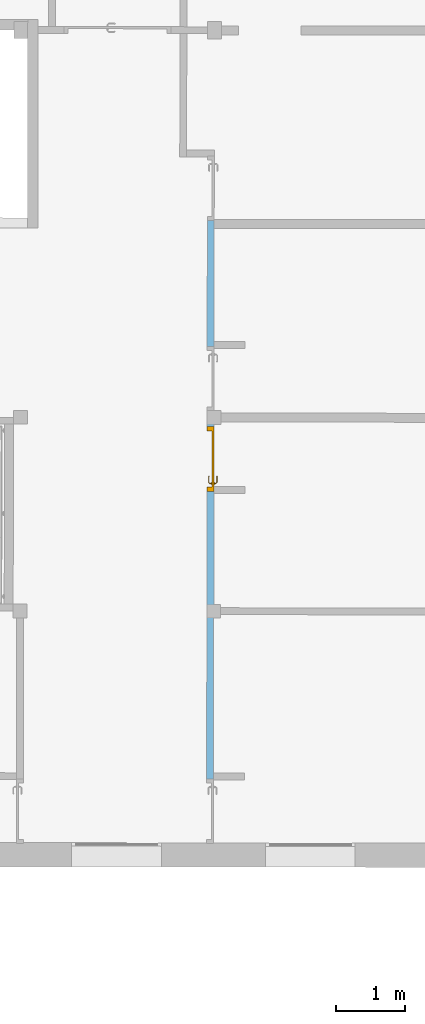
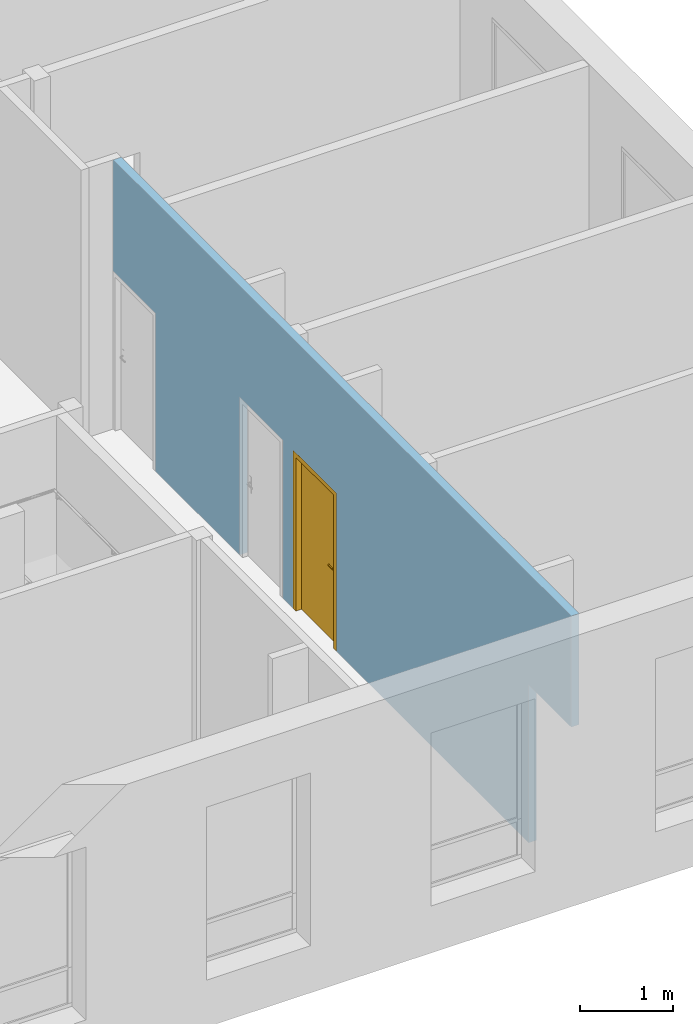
# One storey, part 73 of 101: 1 door, 4 openings, plus 1 element that does not belong to this part.
"""IFC2X3 building model written with IfcOpenShell, lengths in metres."""

import ifcopenshell
import ifcopenshell.guid

model = None  # the IFC model being written
_history = None  # IfcOwnerHistory: only IFC2X3 demands one
_inside = {}  # id of a spatial element -> (the spatial element, [elements in it])
_under = {}  # id of a project, library or spatial element -> (it, [spatial elements below it])
_declared = {}  # id of a project -> (the project, [libraries it declares])
_typed = {}  # id of a type object -> (the type object, [elements of that type])
_made_of = {}  # id of a material, layer set ... -> (it, [elements and type objects made of it])


def new_model(schema):
    """Start an empty IFC model of exactly this schema.

    Asked for "IFC4X3", IfcOpenShell would pick the latest addendum, in which some entities
    have other attributes; the version numbers below select the first issue.
    IFC2X3 requires an IfcOwnerHistory on every rooted entity: one is made here for all.
    """
    global model, _history
    if schema == "IFC4X3":
        model = ifcopenshell.file(schema_version=(4, 3, 0, 0))
    else:
        model = ifcopenshell.file(schema=schema)
    _inside.clear()
    _under.clear()
    _declared.clear()
    _typed.clear()
    _made_of.clear()
    _history = None
    if model.schema == "IFC2X3":
        org = make("IfcOrganization", Name="unknown")
        user = make(
            "IfcPersonAndOrganization",
            ThePerson=make("IfcPerson", FamilyName="unknown"),
            TheOrganization=org,
        )
        app = make(
            "IfcApplication",
            ApplicationDeveloper=org,
            Version="unknown",
            ApplicationFullName="unknown",
            ApplicationIdentifier="unknown",
        )
        _history = make(
            "IfcOwnerHistory",
            OwningUser=user,
            OwningApplication=app,
            ChangeAction="ADDED",
            CreationDate=0,
        )
    return model


def make(cls, **values):
    """One entity of the class cls with the attributes given. An attribute that is None is left unset."""
    return model.create_entity(
        cls, **{name: value for name, value in values.items() if value is not None}
    )


def entity(cls, *values):
    """Any entity or typed value of the class cls, its attributes in the order of the schema. None: left unset."""
    e = model.create_entity(cls)
    for i, value in enumerate(values):
        if value is not None:
            e[i] = value
    return e


def rooted(cls, **values):
    """An entity with a GlobalId (a new one), such as an element, a storey or a relation."""
    return make(cls, GlobalId=ifcopenshell.guid.new(), OwnerHistory=_history, **values)


def si_unit(unit_type, name, prefix=None):
    """IfcSIUnit, for example si_unit("LENGTHUNIT", "METRE", prefix="MILLI")."""
    return make("IfcSIUnit", UnitType=unit_type, Prefix=prefix, Name=name)


def converted_unit(unit_type, name, factor, base, dimensions=None, offset=None):
    """IfcConversionBasedUnit, such as the inch: factor (a typed value) times the base unit."""
    return make(
        "IfcConversionBasedUnit"
        if offset is None
        else "IfcConversionBasedUnitWithOffset",
        ConversionOffset=offset,
        Dimensions=None
        if dimensions is None
        else entity("IfcDimensionalExponents", *dimensions),
        UnitType=unit_type,
        Name=name,
        ConversionFactor=make(
            "IfcMeasureWithUnit", ValueComponent=factor, UnitComponent=base
        ),
    )


def derived_unit(unit_type, elements):
    """IfcDerivedUnit: a product of units, each with its exponent."""
    return make(
        "IfcDerivedUnit",
        Elements=[
            make("IfcDerivedUnitElement", Unit=unit, Exponent=power)
            for unit, power in elements
        ],
        UnitType=unit_type,
    )


def assignment(units):
    """IfcUnitAssignment: the units of a project."""
    return None if units is None else make("IfcUnitAssignment", Units=units)


def point(xyz):
    """IfcCartesianPoint."""
    return None if xyz is None else make("IfcCartesianPoint", Coordinates=xyz)


def direction(xyz):
    """IfcDirection."""
    return None if xyz is None else make("IfcDirection", DirectionRatios=xyz)


def frame(location, z_axis=None, x_axis=None):
    """IfcAxis2Placement3D, a coordinate frame: its origin and axes. An axis left out is left unset."""
    return make(
        "IfcAxis2Placement3D",
        Location=point(location),
        Axis=direction(z_axis),
        RefDirection=direction(x_axis),
    )


def frame_2d(location, x_axis=None):
    """IfcAxis2Placement2D, a coordinate frame in the plane: its origin and x axis."""
    return make(
        "IfcAxis2Placement2D", Location=point(location), RefDirection=direction(x_axis)
    )


def origin():
    """The frame at (0, 0, 0) with its axes left unset."""
    return frame((0.0, 0.0, 0.0))


def place(relative_to, where):
    """IfcLocalPlacement: puts the frame where relative to a parent placement (None: the world)."""
    return make(
        "IfcLocalPlacement", PlacementRelTo=relative_to, RelativePlacement=where
    )


def context(
    kind, dimensions, precision=None, world=None, true_north=None, identifier=None
):
    """IfcGeometricRepresentationContext, for example the 3D "Model" context."""
    return make(
        "IfcGeometricRepresentationContext",
        ContextIdentifier=identifier,
        ContextType=kind,
        CoordinateSpaceDimension=dimensions,
        Precision=precision,
        WorldCoordinateSystem=world,
        TrueNorth=true_north,
    )


def subcontext(parent, identifier, kind, view, scale=None):
    """IfcGeometricRepresentationSubContext, for example "Body" below "Model"."""
    return make(
        "IfcGeometricRepresentationSubContext",
        ContextIdentifier=identifier,
        ContextType=kind,
        ParentContext=parent,
        TargetScale=scale,
        TargetView=view,
    )


def project(units=None, contexts=None):
    """IfcProject with its units and contexts."""
    return rooted(
        "IfcProject",
        Name="project",
        RepresentationContexts=contexts,
        UnitsInContext=assignment(units),
    )


def spatial(cls, under=None, at=None, **own):
    """A site, building, storey or space (cls), placed at a placement, below another one or the project."""
    s = rooted(cls, ObjectPlacement=at, **own)
    if under is not None:
        _under.setdefault(under.id(), (under, []))[1].append(s)
    return s


def profile(cls, at=None, kind="AREA", **sizes):
    """A parametric profile (cls). Its sizes go by their IFC names, for example OverallWidth=200.0."""
    return make(cls, ProfileType=kind, Position=at, **sizes)


def rectangle(**sizes):
    """IfcRectangleProfileDef."""
    return profile("IfcRectangleProfileDef", **sizes)


def extrude(swept, where, along, depth):
    """IfcExtrudedAreaSolid: the profile swept, set in the frame where, extruded along a direction by depth."""
    return make(
        "IfcExtrudedAreaSolid",
        SweptArea=swept,
        Position=where,
        ExtrudedDirection=direction(along),
        Depth=depth,
    )


def faces_of(points, faces, orient=None, outer=None):
    """IfcFace entities. A face is a list of loops; a loop is a list of indices into points, from 0.

    orient and outer hold one flag for each loop. By default every Orientation is true, the
    first loop of a face is its IfcFaceOuterBound and the others are IfcFaceBound.
    """
    made = []
    for i, loops in enumerate(faces):
        bounds = []
        for j, loop in enumerate(loops):
            is_outer = j == 0 if outer is None else outer[i][j]
            bounds.append(
                make(
                    "IfcFaceOuterBound" if is_outer else "IfcFaceBound",
                    Bound=make("IfcPolyLoop", Polygon=[points[k] for k in loop]),
                    Orientation=True if orient is None else orient[i][j],
                )
            )
        made.append(make("IfcFace", Bounds=bounds))
    return made


def faceted_brep(points, faces, orient=None, outer=None, voids=None):
    """IfcFacetedBrep: a solid bounded by flat faces; with voids (closed shells), ...WithVoids."""
    shared = [point(p) for p in points]
    hull = make("IfcClosedShell", CfsFaces=faces_of(shared, faces, orient, outer))
    if voids is None:
        return make("IfcFacetedBrep", Outer=hull)
    return make(
        "IfcFacetedBrepWithVoids",
        Outer=hull,
        Voids=[
            make(cls, CfsFaces=faces_of(shared, fs, o, b)) for cls, fs, o, b in voids
        ],
    )


def shape(context_of_items, identifier, shape_type, items):
    """IfcShapeRepresentation: the items that make up one representation, for example the "Body"."""
    return make(
        "IfcShapeRepresentation",
        ContextOfItems=context_of_items,
        RepresentationIdentifier=identifier,
        RepresentationType=shape_type,
        Items=items,
    )


def source(mapping_origin, context_of_items, identifier, shape_type, items):
    """IfcRepresentationMap: a shape defined once, which mapped items show again and again."""
    return make(
        "IfcRepresentationMap",
        MappingOrigin=mapping_origin,
        MappedRepresentation=shape(context_of_items, identifier, shape_type, items),
    )


def transform(
    local_origin,
    x_axis=None,
    y_axis=None,
    z_axis=None,
    scale=None,
    scale2=None,
    scale3=None,
    uniform=True,
):
    """IfcCartesianTransformationOperator3D, or its non-uniform kind. x_axis, y_axis, z_axis: its Axis1, 2, 3."""
    if uniform:
        return make(
            "IfcCartesianTransformationOperator3D",
            Axis1=direction(x_axis),
            Axis2=direction(y_axis),
            LocalOrigin=point(local_origin),
            Scale=scale,
            Axis3=direction(z_axis),
        )
    return make(
        "IfcCartesianTransformationOperator3DnonUniform",
        Axis1=direction(x_axis),
        Axis2=direction(y_axis),
        LocalOrigin=point(local_origin),
        Scale=scale,
        Axis3=direction(z_axis),
        Scale2=scale2,
        Scale3=scale3,
    )


def mapped(mapping_source, mapping_target):
    """IfcMappedItem: shows the shape of a source again, moved by a transform."""
    return make(
        "IfcMappedItem", MappingSource=mapping_source, MappingTarget=mapping_target
    )


def material(Name=None, Category=None):
    """IfcMaterial."""
    return make("IfcMaterial", Name=Name, Category=Category)


def material_list(materials):
    """IfcMaterialList."""
    return make("IfcMaterialList", Materials=materials)


def layer(
    of_material, thickness, ventilated=None, Name=None, Category=None, Priority=None
):
    """IfcMaterialLayer: one layer of a wall or slab, of a material (None: an air gap)."""
    return make(
        "IfcMaterialLayer",
        Material=of_material,
        LayerThickness=thickness,
        IsVentilated=ventilated,
        Name=Name,
        Category=Category,
        Priority=Priority,
    )


def layer_set(layers, Name=None):
    """IfcMaterialLayerSet."""
    return make("IfcMaterialLayerSet", MaterialLayers=layers, LayerSetName=Name)


def layer_usage(for_layer_set, set_direction, sense, offset, extent=None):
    """IfcMaterialLayerSetUsage: how a layer set lies in its element."""
    return make(
        "IfcMaterialLayerSetUsage",
        ForLayerSet=for_layer_set,
        LayerSetDirection=set_direction,
        DirectionSense=sense,
        OffsetFromReferenceLine=offset,
        ReferenceExtent=extent,
    )


def made_of(thing, what):
    """Note that an element or type object is made of a material, layer set ...; save() writes the relation."""
    if what is not None:
        _made_of.setdefault(what.id(), (what, []))[1].append(thing)
    return thing


def type_object(cls, material=None, **own):
    """A type object (cls), such as IfcWallType, which elements share."""
    return made_of(rooted(cls, **own), material)


def type_shapes(of_type, sources):
    """Give a type object the sources (RepresentationMaps) that its elements show as mapped items."""
    of_type.RepresentationMaps = sources


def element(
    cls,
    number,
    at=None,
    inside=None,
    cuts=None,
    type_object=None,
    material=None,
    context=None,
    identifier="Body",
    shape_type=None,
    held_by="IfcProductDefinitionShape",
    body=None,
    shapes=None,
    **own,
):
    """One element of the class cls, such as IfcWall. Its Tag is "e" and its number.

    at: its placement. inside: the storey or other place that contains it. cuts: it is an
    opening in that element (IfcRelVoidsElement). A single representation is given by context,
    identifier, shape_type and body (its items); several are given by shapes. held_by: the class
    of the entity that holds the representations. save() writes the other relations.
    """
    e = rooted(cls, Tag="e%d" % number, ObjectPlacement=at, **own)
    if body is not None:
        shapes = [shape(context, identifier, shape_type, body)]
    if shapes is not None:
        e.Representation = make(held_by, Representations=shapes)
    if inside is not None:
        _inside.setdefault(inside.id(), (inside, []))[1].append(e)
    if cuts is not None:
        rooted(
            "IfcRelVoidsElement", RelatingBuildingElement=cuts, RelatedOpeningElement=e
        )
    if type_object is not None:
        _typed.setdefault(type_object.id(), (type_object, []))[1].append(e)
    return made_of(e, material)


def fill(opening, filler):
    """IfcRelFillsElement: the door or window that sits in an opening."""
    return rooted(
        "IfcRelFillsElement",
        RelatingOpeningElement=opening,
        RelatedBuildingElement=filler,
    )


def aggregate(whole, parts):
    """IfcRelAggregates: a whole, such as a stair, and the parts it consists of."""
    return rooted("IfcRelAggregates", RelatingObject=whole, RelatedObjects=parts)


def save(model, path):
    """Write the relations noted so far, then the file.

    IfcRelAggregates (storeys below a building ...), IfcRelContainedInSpatialStructure (elements
    in a storey), IfcRelDefinesByType, IfcRelAssociatesMaterial and IfcRelDeclares: one each for
    every whole, place, type object, material and project.
    """
    for whole, parts in _under.values():
        aggregate(whole, parts)
    for where, things in _inside.values():
        rooted(
            "IfcRelContainedInSpatialStructure",
            RelatedElements=things,
            RelatingStructure=where,
        )
    for kind, things in _typed.values():
        rooted("IfcRelDefinesByType", RelatedObjects=things, RelatingType=kind)
    for what, things in _made_of.values():
        rooted("IfcRelAssociatesMaterial", RelatedObjects=things, RelatingMaterial=what)
    for by, libraries in _declared.values():
        rooted("IfcRelDeclares", RelatingContext=by, RelatedDefinitions=libraries)
    model.write(path)


model = new_model("IFC2X3")

# Units and contexts
model_context = context("Model", 3, precision=1e-05, world=origin(), true_north=direction((6.123233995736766e-17, 1.0)))
body_context = subcontext(model_context, "Body", "Model", "MODEL_VIEW")
ifc_project = project(units=[si_unit("LENGTHUNIT", "METRE"), si_unit("AREAUNIT", "SQUARE_METRE"), converted_unit("PLANEANGLEUNIT", "DEGREE", entity("IfcPlaneAngleMeasure", 0.017453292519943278), si_unit("PLANEANGLEUNIT", "RADIAN"), dimensions=[0, 0, 0, 0, 0, 0, 0]), derived_unit("THERMALTRANSMITTANCEUNIT", [(si_unit("MASSUNIT", "GRAM", prefix="KILO"), 1), (si_unit("THERMODYNAMICTEMPERATUREUNIT", "KELVIN"), -1), (si_unit("TIMEUNIT", "SECOND"), -3)])], contexts=[model_context])

# Site, building, storey
site_placement = place(None, frame((1253.6752467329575, 2072.143113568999, 91.49999999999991), z_axis=(0.0, 0.0, 1.0), x_axis=(0.7237211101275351, 0.6900925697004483, 0.0)))
site = spatial("IfcSite", under=ifc_project, at=site_placement, Name="Surface", CompositionType="ELEMENT")
building_placement = place(site_placement, origin())
building = spatial("IfcBuilding", under=site, at=building_placement, CompositionType="ELEMENT")
storey_placement = place(building_placement, origin())
storey = spatial("IfcBuildingStorey", under=building, at=storey_placement, Name="0- Rdc", CompositionType="ELEMENT", Elevation=-5.764692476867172e-13)

# Wall, openings, door
ifc_material_1 = material(Name="OMD_Béton blanc")
ifc_layer = layer(ifc_material_1, 0.1)
ifc_layer_set = layer_set([ifc_layer], Name="Mur de base:MUR 10")
ifc_layer_usage = layer_usage(ifc_layer_set, "AXIS2", "NEGATIVE", 0.05)
wall_type = type_object("IfcWallType", Name="Mur de base:MUR 10", PredefinedType="STANDARD", material=ifc_layer_set)
wall_placement = place(storey_placement, frame((182.31139510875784, -18.405602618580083, 0.0), z_axis=(0.0, 0.0, 1.0), x_axis=(-0.6909838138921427, -0.7228702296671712, 0.0)))
wall = element("IfcWallStandardCase", 1, at=wall_placement, inside=storey, type_object=wall_type, material=ifc_layer_usage, Name="Mur de base:MUR 10", ObjectType="Mur de base:MUR 10", context=body_context, shape_type="SweptSolid", body=[
    extrude(rectangle(XDim=9.914999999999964, YDim=0.10000000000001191, at=frame_2d((4.957499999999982, 2.4424906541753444e-15), x_axis=(-1.0, 0.0))), origin(), (0.0, 0.0, 1.0), 3.5499999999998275),
])
opening_1_placement = place(wall_placement, frame((-0.01749999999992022, -0.04999999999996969, 0.0)))
element("IfcOpeningElement", 2, at=opening_1_placement, cuts=wall, Name="OMD_Porte 1V tunnel:80x204:1", ObjectType="Opening", context=body_context, shape_type="SweptSolid", body=[
    extrude(rectangle(XDim=2.0850000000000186, YDim=0.9349999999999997, at=frame_2d((1.0425000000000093, 0.46749999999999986), x_axis=(1.0, 0.0))), frame((0.0, 0.0, 0.0), z_axis=(0.0, 1.0, 0.0), x_axis=(0.0, 0.0, 1.0)), (0.0, 0.0, 1.0), 0.1),
])
opening_2_placement = place(wall_placement, frame((2.7375000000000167, -0.04999999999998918, 0.0)))
element("IfcOpeningElement", 3, at=opening_2_placement, cuts=wall, Name="OMD_Porte 1V tunnel:80x204:1", ObjectType="Opening", context=body_context, shape_type="SweptSolid", body=[
    extrude(rectangle(XDim=2.0850000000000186, YDim=0.9349999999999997, at=frame_2d((1.0425000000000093, 0.46749999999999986), x_axis=(1.0, 0.0))), frame((0.0, 0.0, 0.0), z_axis=(0.0, 1.0, 0.0), x_axis=(0.0, 0.0, 1.0)), (0.0, 0.0, 1.0), 0.1),
])
opening_3_placement = place(wall_placement, frame((3.8974999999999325, -0.04999999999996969, 0.0)))
opening_3 = element("IfcOpeningElement", 4, at=opening_3_placement, cuts=wall, Name="OMD_Porte 1V tunnel:80x204:1", ObjectType="Opening", context=body_context, shape_type="SweptSolid", body=[
    extrude(rectangle(XDim=2.0850000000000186, YDim=0.9349999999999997, at=frame_2d((1.0425000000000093, 0.46749999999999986), x_axis=(1.0, 0.0))), frame((0.0, 0.0, 0.0), z_axis=(0.0, 1.0, 0.0), x_axis=(0.0, 0.0, 1.0)), (0.0, 0.0, 1.0), 0.1),
])
opening_4_placement = place(wall_placement, frame((8.992500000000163, -0.050000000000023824, 0.0)))
element("IfcOpeningElement", 5, at=opening_4_placement, cuts=wall, Name="OMD_Porte 1V tunnel:80x204:1", ObjectType="Opening", context=body_context, shape_type="SweptSolid", body=[
    extrude(rectangle(XDim=2.0850000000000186, YDim=0.9349999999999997, at=frame_2d((1.0425000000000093, 0.46749999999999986), x_axis=(1.0, 0.0))), frame((0.0, 0.0, 0.0), z_axis=(0.0, 1.0, 0.0), x_axis=(0.0, 0.0, 1.0)), (0.0, 0.0, 1.0), 0.1),
])
ifc_material_2 = material(Name="Porte - Poignée")
ifc_material_3 = material(Name="OMD_Peinture mur")
ifc_material_4 = material(Name="OMD_Bois")
ifc_material_list = material_list([ifc_material_2, ifc_material_3, ifc_material_4])
door_style = type_object("IfcDoorStyle", Name="OMD_Porte 1V tunnel:80x204", ConstructionType="NOTDEFINED", OperationType="NOTDEFINED", ParameterTakesPrecedence=False, Sizeable=False, material=ifc_material_list)
shared_shape = source(origin(), body_context, "Body", "Brep", [
    faceted_brep([(0.21297470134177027, 0.03500000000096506, 1.0077804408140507), (0.20900000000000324, 0.03500000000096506, 1.0069999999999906), (0.208999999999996, 0.03500000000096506, 0.9929999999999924), (0.21297470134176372, 0.03500000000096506, 0.9922195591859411), (0.21702529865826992, 0.03500000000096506, 0.9922195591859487), (0.22100000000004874, 0.03500000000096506, 0.9930000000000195), (0.22100000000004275, 0.03500000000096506, 1.0069999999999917), (0.2170252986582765, 0.03500000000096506, 1.007780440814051), (0.22100000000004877, 0.05748520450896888, 0.9930000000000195), (0.22100000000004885, 0.057485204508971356, 1.0069999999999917), (0.21702529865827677, 0.059131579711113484, 1.007780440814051), (0.23083890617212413, 0.07294518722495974, 1.007780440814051), (0.2291610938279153, 0.07699578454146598, 1.0077804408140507), (0.21297470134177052, 0.060809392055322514, 1.0077804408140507), (0.3206847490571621, 0.0664673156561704, 1.0077804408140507), (0.32354895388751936, 0.06933152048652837, 1.0077804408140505), (0.31588468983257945, 0.07699578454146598, 1.0077804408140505), (0.31420687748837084, 0.07294518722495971, 1.0077804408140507), (0.20900000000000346, 0.06245576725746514, 1.0069999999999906), (0.20900000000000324, 0.06245576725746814, 0.9929999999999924), (0.21297470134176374, 0.06080939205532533, 0.9922195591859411), (0.22916109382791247, 0.07699578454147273, 0.9922195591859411), (0.23083890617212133, 0.07294518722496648, 0.9922195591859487), (0.21702529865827, 0.05913157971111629, 0.9922195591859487), (0.32354895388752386, 0.06933152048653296, 0.9922195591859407), (0.3206847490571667, 0.06646731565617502, 0.9922195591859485), (0.3142068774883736, 0.07294518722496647, 0.9922195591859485), (0.3158846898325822, 0.07699578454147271, 0.9922195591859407), (0.23248528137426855, 0.0689704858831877, 0.9930000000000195), (0.23248528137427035, 0.06897048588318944, 1.0069999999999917), (0.22751471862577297, 0.0809704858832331, 1.0069999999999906), (0.22751471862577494, 0.08097048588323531, 0.9929999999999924), (0.2725228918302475, 0.06897048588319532, 0.9930000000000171), (0.3125605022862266, 0.06897048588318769, 0.9930000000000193), (0.31256050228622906, 0.06897048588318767, 1.0069999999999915), (0.2725228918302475, 0.0689704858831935, 1.0069999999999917), (0.2725228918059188, 0.07512492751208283, 1.0078781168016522), (0.31753106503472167, 0.08097048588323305, 1.0069999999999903), (0.2776005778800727, 0.08097048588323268, 1.0069999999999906), (0.31753106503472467, 0.08097048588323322, 0.9929999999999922), (0.2674452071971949, 0.08097048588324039, 0.9929999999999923), (0.2725228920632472, 0.07512492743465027, 0.9921218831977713), (0.317874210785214, 0.06365677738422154, 0.9930000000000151), (0.32635949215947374, 0.07214205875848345, 0.99299999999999), (0.3263594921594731, 0.07214205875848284, 1.0069999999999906), (0.317874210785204, 0.06365677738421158, 1.0069999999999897)], [[[0, 1, 2, 3, 4, 5, 6, 7]], [[6, 5, 8, 9]], [[9, 10, 7, 6]], [[10, 11, 12, 13, 0, 7]], [[14, 15, 16, 17]], [[13, 18, 1, 0]], [[2, 1, 18, 19]], [[19, 20, 3, 2]], [[20, 21, 22, 23, 4, 3]], [[24, 25, 26, 27]], [[23, 8, 5, 4]], [[9, 8, 28, 29]], [[29, 11, 10, 9]], [[12, 30, 18, 13]], [[19, 18, 30, 31]], [[31, 21, 20, 19]], [[22, 28, 8, 23]], [[29, 28, 32, 33, 34, 35]], [[11, 35, 36]], [[16, 37, 38]], [[30, 12, 38]], [[38, 12, 36]], [[36, 35, 17]], [[17, 16, 36]], [[35, 11, 29]], [[34, 17, 35]], [[11, 36, 12]], [[38, 36, 16]], [[31, 30, 38, 37, 39, 40]], [[40, 41, 21]], [[41, 40, 27]], [[21, 31, 40]], [[39, 27, 40]], [[41, 32, 22]], [[22, 21, 41]], [[26, 32, 41]], [[28, 22, 32]], [[32, 26, 33]], [[26, 41, 27]], [[42, 25, 24, 43, 44, 15, 14, 45]], [[34, 33, 42, 45]], [[45, 14, 17, 34]], [[15, 44, 37, 16]], [[39, 37, 44, 43]], [[43, 24, 27, 39]], [[25, 42, 33, 26]]]),
    faceted_brep([(0.21297470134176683, -0.004999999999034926, 1.0077804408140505), (0.2170252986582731, -0.004999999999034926, 1.007780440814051), (0.2210000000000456, -0.004999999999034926, 1.006999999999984), (0.22100000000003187, -0.004999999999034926, 0.9930000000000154), (0.21702529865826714, -0.004999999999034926, 0.9922195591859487), (0.21297470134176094, -0.004999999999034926, 0.992219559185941), (0.20900000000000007, -0.004999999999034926, 0.992999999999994), (0.20900000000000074, -0.004999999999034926, 1.0069999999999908), (0.20900000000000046, -0.03265095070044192, 1.0069999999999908), (0.21297470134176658, -0.03100457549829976, 1.0077804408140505), (0.22902358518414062, -0.04705345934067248, 1.0077804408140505), (0.2307013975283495, -0.04300286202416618, 1.007780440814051), (0.21702529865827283, -0.02932676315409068, 1.007780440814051), (0.3235218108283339, -0.039389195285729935, 1.0077804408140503), (0.3206576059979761, -0.03652499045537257, 1.0077804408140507), (0.3141797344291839, -0.04300286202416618, 1.0077804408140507), (0.31585754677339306, -0.04705345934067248, 1.0077804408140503), (0.22100000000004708, -0.027680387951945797, 1.0069999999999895), (0.22100000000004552, -0.02768038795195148, 0.9930000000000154), (0.21702529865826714, -0.029326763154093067, 0.9922195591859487), (0.23070139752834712, -0.04300286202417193, 0.9922195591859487), (0.2290235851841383, -0.0470534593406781, 0.992219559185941), (0.21297470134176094, -0.031004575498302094, 0.992219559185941), (0.32065760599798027, -0.036524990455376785, 0.9922195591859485), (0.3235218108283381, -0.03938919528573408, 0.9922195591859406), (0.31585754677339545, -0.047053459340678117, 0.9922195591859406), (0.3141797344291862, -0.04300286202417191, 0.9922195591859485), (0.20899999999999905, -0.032650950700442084, 0.9929999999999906), (0.22737720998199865, -0.051028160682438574, 1.0069999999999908), (0.23234777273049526, -0.03902816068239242, 1.0069999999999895), (0.23234777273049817, -0.03902816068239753, 0.9930000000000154), (0.22737720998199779, -0.051028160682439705, 0.9929999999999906), (0.2673076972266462, -0.05102816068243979, 1.0069999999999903), (0.272440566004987, -0.0451828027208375, 1.0078781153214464), (0.3175039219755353, -0.05102816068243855, 1.0069999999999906), (0.27244056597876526, -0.039028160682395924, 1.0069999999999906), (0.3125333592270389, -0.03902816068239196, 1.0069999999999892), (0.31253335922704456, -0.03902816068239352, 0.9930000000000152), (0.27244056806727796, -0.03902816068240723, 0.9930000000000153), (0.27244056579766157, -0.04518280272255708, 0.9921218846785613), (0.3175039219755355, -0.051028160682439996, 0.9929999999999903), (0.27757344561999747, -0.051028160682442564, 0.9929999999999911), (0.3178470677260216, -0.03371445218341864, 1.0069999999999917), (0.3263323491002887, -0.04219973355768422, 1.0069999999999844), (0.3263323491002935, -0.04219973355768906, 0.9929999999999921), (0.31784706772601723, -0.033714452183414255, 0.9930000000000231)], [[[0, 1, 2, 3, 4, 5, 6, 7]], [[8, 9, 0, 7]], [[9, 10, 11, 12, 1, 0]], [[13, 14, 15, 16]], [[12, 17, 2, 1]], [[3, 2, 17, 18]], [[18, 19, 4, 3]], [[19, 20, 21, 22, 5, 4]], [[23, 24, 25, 26]], [[22, 27, 6, 5]], [[7, 6, 27, 8]], [[28, 10, 9, 8]], [[11, 29, 17, 12]], [[18, 17, 29, 30]], [[30, 20, 19, 18]], [[21, 31, 27, 22]], [[8, 27, 31, 28]], [[32, 33, 10]], [[33, 32, 16]], [[10, 28, 32]], [[34, 16, 32]], [[33, 35, 11]], [[11, 10, 33]], [[15, 35, 33]], [[29, 11, 35]], [[35, 15, 36]], [[15, 33, 16]], [[30, 29, 35, 36, 37, 38]], [[20, 38, 39]], [[25, 40, 41]], [[31, 21, 41]], [[41, 21, 39]], [[39, 38, 26]], [[26, 25, 39]], [[38, 20, 30]], [[37, 26, 38]], [[20, 39, 21]], [[41, 39, 25]], [[28, 31, 41, 40, 34, 32]], [[42, 14, 13, 43, 44, 24, 23, 45]], [[43, 13, 16, 34]], [[14, 42, 36, 15]], [[37, 36, 42, 45]], [[45, 23, 26, 37]], [[24, 44, 40, 25]], [[34, 40, 44, 43]]]),
    faceted_brep([(0.22535276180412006, 0.030000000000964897, 0.8660039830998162), (0.2350000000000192, 0.030000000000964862, 0.8700000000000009), (0.2350000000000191, 0.030000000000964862, 1.0800000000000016), (0.2253527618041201, 0.030000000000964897, 1.0839960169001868), (0.21500000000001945, 0.030000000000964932, 1.0853589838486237), (0.20464723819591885, 0.03000000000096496, 1.0839960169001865), (0.19500000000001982, 0.030000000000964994, 1.0800000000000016), (0.19500000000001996, 0.030000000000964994, 0.8700000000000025), (0.20464723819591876, 0.03000000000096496, 0.866003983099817), (0.21500000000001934, 0.030000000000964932, 0.8646410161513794), (0.22535276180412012, 0.0350000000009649, 1.0839960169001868), (0.2350000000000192, 0.03500000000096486, 1.0800000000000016), (0.23500000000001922, 0.03500000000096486, 0.8700000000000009), (0.22535276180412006, 0.0350000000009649, 0.8660039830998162), (0.21500000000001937, 0.03500000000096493, 0.8646410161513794), (0.20464723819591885, 0.03500000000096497, 0.866003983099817), (0.19500000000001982, 0.035000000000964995, 0.8700000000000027), (0.19500000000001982, 0.035000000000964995, 1.0800000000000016), (0.20464723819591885, 0.03500000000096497, 1.0839960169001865), (0.21500000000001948, 0.03500000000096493, 1.0853589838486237)], [[[0, 1, 2, 3, 4, 5, 6, 7, 8, 9]], [[10, 11, 12, 13, 14, 15, 16, 17, 18, 19]], [[11, 10, 3, 2]], [[3, 10, 19, 4]], [[19, 18, 5, 4]], [[18, 17, 6, 5]], [[7, 6, 17, 16]], [[16, 15, 8, 7]], [[8, 15, 14, 9]], [[14, 13, 0, 9]], [[13, 12, 1, 0]], [[2, 1, 12, 11]]]),
    faceted_brep([(0.22535276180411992, -0.004999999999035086, 0.8660039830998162), (0.2350000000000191, -0.004999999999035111, 0.8700000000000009), (0.23500000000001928, -0.004999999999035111, 1.0800000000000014), (0.22535276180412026, -0.004999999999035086, 1.0839960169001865), (0.2150000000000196, -0.004999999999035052, 1.0853589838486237), (0.20464723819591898, -0.0049999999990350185, 1.0839960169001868), (0.19500000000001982, -0.004999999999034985, 1.0800000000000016), (0.19500000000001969, -0.004999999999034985, 0.8700000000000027), (0.20464723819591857, -0.0049999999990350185, 0.8660039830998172), (0.21500000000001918, -0.004999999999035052, 0.8646410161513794), (0.22535276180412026, 0.0, 1.0839960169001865), (0.2350000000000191, 0.0, 1.0800000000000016), (0.2350000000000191, 0.0, 0.8700000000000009), (0.22535276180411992, 0.0, 0.8660039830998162), (0.21500000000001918, 0.0, 0.8646410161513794), (0.20464723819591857, 0.0, 0.8660039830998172), (0.19500000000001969, 0.0, 0.8700000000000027), (0.19500000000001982, 0.0, 1.0800000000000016), (0.20464723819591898, 0.0, 1.0839960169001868), (0.2150000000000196, 0.0, 1.0853589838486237)], [[[0, 1, 2, 3, 4, 5, 6, 7, 8, 9]], [[10, 11, 12, 13, 14, 15, 16, 17, 18, 19]], [[16, 15, 8, 7]], [[8, 15, 14, 9]], [[14, 13, 0, 9]], [[13, 12, 1, 0]], [[2, 1, 12, 11]], [[11, 10, 3, 2]], [[3, 10, 19, 4]], [[19, 18, 5, 4]], [[18, 17, 6, 5]], [[7, 6, 17, 16]]]),
    faceted_brep([(0.14500000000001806, 0.030000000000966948, 0.0), (0.9900000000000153, 0.030000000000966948, 0.0), (0.9900000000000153, 0.0, 0.0), (0.14500000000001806, 0.0, 0.0), (0.14500000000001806, 0.030000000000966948, 2.04), (0.14500000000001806, 0.0, 2.04), (0.9900000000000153, 0.0, 2.04), (0.9900000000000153, 0.030000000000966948, 2.04)], [[[0, 1, 2, 3]], [[4, 0, 3, 5]], [[5, 3, 2, 6]], [[6, 2, 1, 7]], [[7, 1, 0, 4]], [[4, 5, 6, 7]]]),
    faceted_brep([(0.10000000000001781, 0.0, 0.0), (0.10000000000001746, 0.10000000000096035, 0.0), (0.16000000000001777, 0.10000000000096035, 0.0), (0.16000000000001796, 0.03000000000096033, 0.0), (0.145000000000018, 0.03000000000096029, 0.0), (0.14500000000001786, 0.0, 0.0), (0.145000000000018, 0.0, 2.04), (0.9900000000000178, 0.0, 2.0400000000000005), (0.9900000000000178, 0.0, 0.0), (1.0350000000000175, 0.0, 0.0), (1.0350000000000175, 0.0, 2.085), (0.10000000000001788, 0.0, 2.085), (0.14500000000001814, 0.030000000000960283, 2.04), (0.16000000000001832, 0.03000000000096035, 2.0249999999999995), (0.9750000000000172, 0.03000000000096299, 2.0249999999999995), (0.9750000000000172, 0.03000000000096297, 0.0), (0.9900000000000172, 0.03000000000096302, 0.0), (0.9900000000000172, 0.03000000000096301, 2.0399999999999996), (0.16000000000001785, 0.10000000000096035, 2.0249999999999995), (0.1000000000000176, 0.10000000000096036, 2.085), (1.0350000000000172, 0.10000000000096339, 2.085), (1.0350000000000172, 0.10000000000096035, 0.0), (0.9750000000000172, 0.10000000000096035, 0.0), (0.9750000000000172, 0.10000000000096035, 2.025)], [[[0, 1, 2, 3, 4, 5]], [[5, 6, 7, 8, 9, 10, 11, 0]], [[4, 12, 6, 5]], [[3, 13, 14, 15, 16, 17, 12, 4]], [[2, 18, 13, 3]], [[1, 19, 20, 21, 22, 23, 18, 2]], [[0, 11, 19, 1]], [[10, 9, 21, 20]], [[9, 8, 16, 15, 22, 21]], [[17, 16, 8, 7]], [[23, 22, 15, 14]], [[12, 17, 7, 6]], [[18, 23, 14, 13]], [[11, 10, 20, 19]]]),
])
type_shapes(door_style, [shared_shape])
door_placement = place(opening_3_placement, frame((1.0350000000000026, 0.0999999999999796, 0.0), z_axis=(0.0, 0.0, 1.0), x_axis=(-1.0, 0.0, 0.0)))
door = element("IfcDoor", 6, at=door_placement, inside=storey, type_object=door_style, material=ifc_material_list, Name="OMD_Porte 1V tunnel:80x204", ObjectType="OMD_Porte 1V tunnel:80x204", OverallHeight=2.0850000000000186, OverallWidth=0.935000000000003, context=body_context, shape_type="MappedRepresentation", body=[
    mapped(shared_shape, transform((0.0, 0.0, 0.0), scale=1.0)),
])
fill(opening_3, door)

save(model, "model.ifc")
